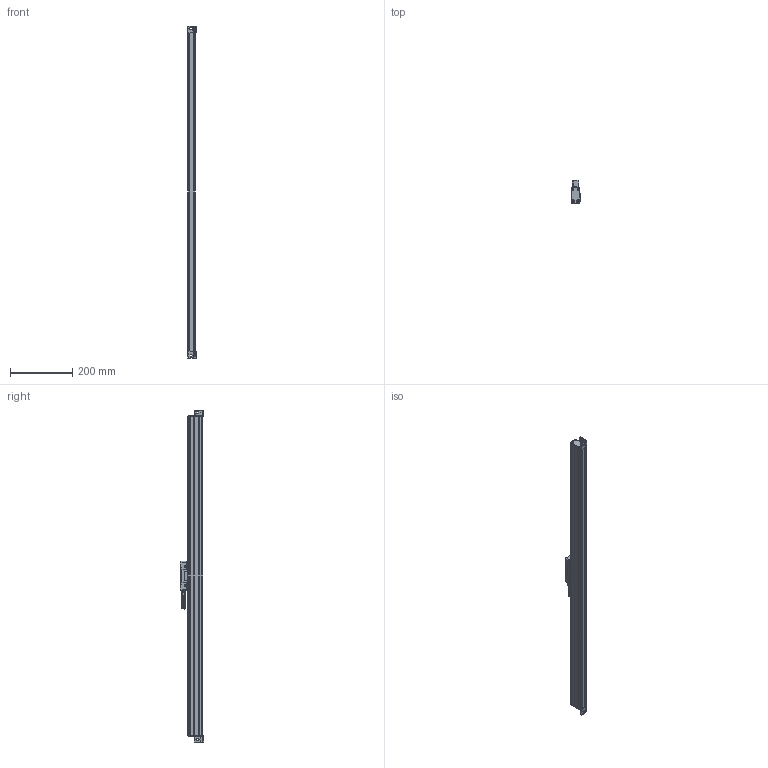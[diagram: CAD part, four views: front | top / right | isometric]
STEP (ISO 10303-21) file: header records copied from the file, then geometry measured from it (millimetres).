
FILE_DESCRIPTION (( 'STEP AP214' ), '1' );
FILE_NAME ('MLC310x0900.STEP', '2021-05-08T11:52:09', ( '' ), ( '' ), 'SwSTEP 2.0', 'SolidWorks 2014', '' );
FILE_SCHEMA (( 'AUTOMOTIVE_DESIGN' ));
Length unit declared in the file: millimetre
Products named in the file (1): MLC310x0900
Bounding box: 27 x 75.15 x 1064 mm (x, y, z)
Surface area: 188648.6 mm2 (no closed solid volume)
Topology: 0 solids, 21 shells, 399 faces, 1336 edges, 954 vertices
Faces by surface type: plane 163, cylinder 139, cone 69, bspline 20, torus 8
Entity records: 29021 total; most frequent: CARTESIAN_POINT 13302, DIRECTION 2325, ORIENTED_EDGE 2088, EDGE_CURVE 1334, VERTEX_POINT 954, AXIS2_PLACEMENT_3D 808, LINE 709, VECTOR 709
